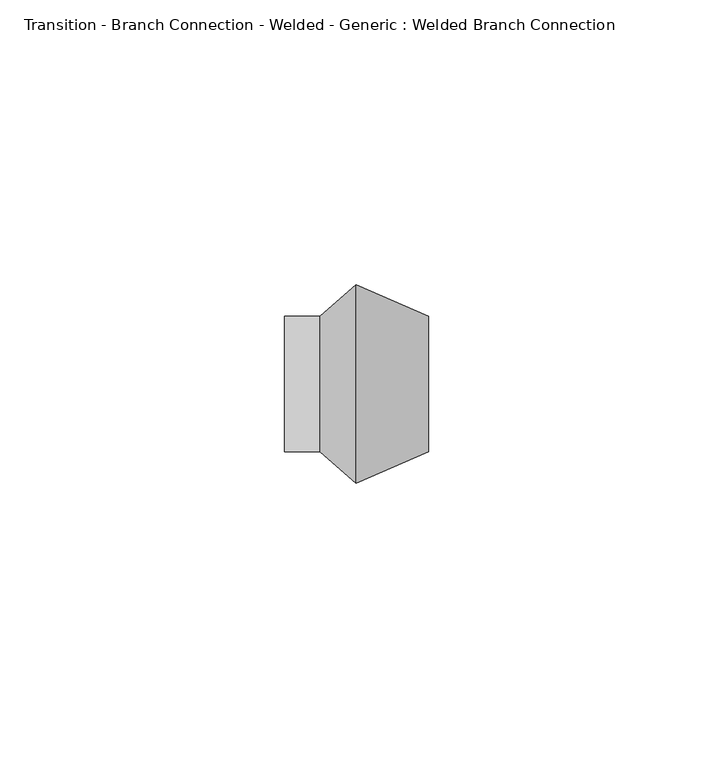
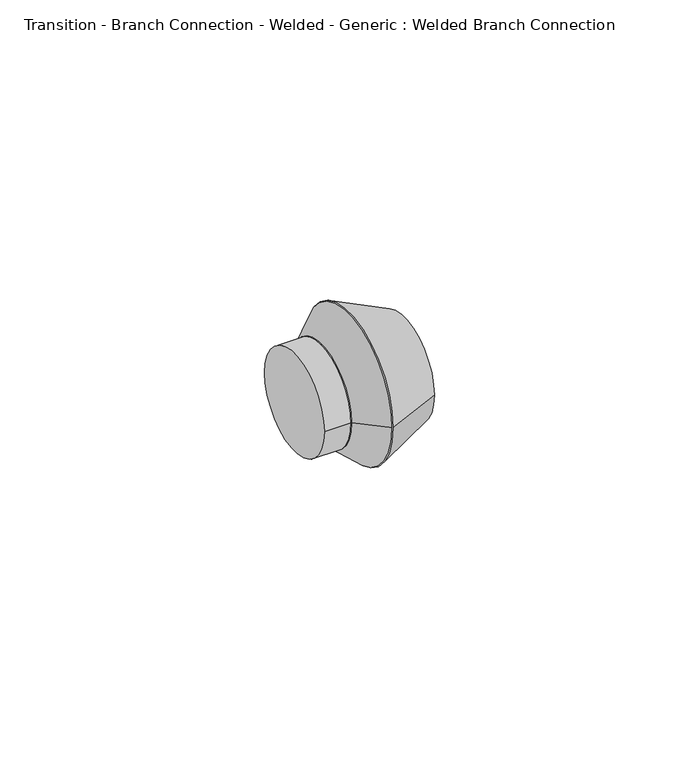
"""IFC4 building model written with IfcOpenShell, lengths in millimetres: pipe fitting geometry, Transition - Branch Connection - Welded - Generic : Welded Branch Connection."""

from ifc_helpers import new_model, si_unit, point, frame, origin, origin_2d, place, context, project, spatial, polyline, circle_curve, trimmed, segment, composite_curve, outline, extrude, source, transform, mapped, element, save
from ifc_brep_helpers import plane_surface, revolved_surface, advanced_brep


def transition_branch_connection_welded_generic_welded_branch_0f21a8f6(model_context):
    return source(origin(), model_context, "Body", "SolidModel", [
        advanced_brep(
        [(6.35, 17.4625, 0.0), (6.35, -17.4625, 0.0), (19.05, 11.90625, 0.0), (19.05, -11.90625, 0.0)],
        [
            (0, 1, circle_curve(frame((6.35, 0.0, 0.0), z_axis=(-1.0, 0.0, 0.0), x_axis=(0.0, -1.0, 0.0)), 17.4625)),
            (1, 0, circle_curve(frame((6.35, 0.0, 0.0), z_axis=(-1.0, 0.0, 0.0), x_axis=(0.0, 1.0, 0.0)), 17.4625)),
            (2, 3, circle_curve(frame((19.05, 0.0, 0.0), z_axis=(1.0, 0.0, 0.0), x_axis=(0.0, 1.0, 0.0)), 11.90625)),
            (3, 2, circle_curve(frame((19.05, 0.0, 0.0), z_axis=(1.0, 0.0, 0.0), x_axis=(0.0, -1.0, 0.0)), 11.90625)),
            (3, 1),
            (0, 2),
        ],
        [
            plane_surface(frame((6.35, 0.0, 0.0), z_axis=(-1.0, 0.0, 0.0), x_axis=(0.0, 0.0, -1.0))),
            plane_surface(frame((19.05, 0.0, 0.0), z_axis=(1.0, 0.0, 0.0), x_axis=(0.0, 0.0, -1.0))),
            revolved_surface(polyline([(19.05, -11.906249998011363, 0.0), (6.350000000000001, -17.4625, 0.0)]), (46.2642857, 0.0, 0.0), (-1.0, 0.0, 0.0)),
            revolved_surface(polyline([(19.05, 11.906249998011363, 0.0), (6.350000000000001, 17.4625, 0.0)]), (46.2642857, 0.0, 0.0), (-1.0, 0.0, 0.0)),
        ],
        [
            (0, [[1, 2]]),
            (1, [[3, 4]]),
            (2, [[5, -1, 6, -4]]),
            (3, [[-6, -2, -5, -3]]),
        ],
    ),
        advanced_brep(
        [(6.35, 17.4625, 0.0), (6.35, -17.4625, 0.0), (0.0, 11.90625, 0.0), (0.0, -11.90625, 0.0)],
        [
            (0, 1, circle_curve(frame((6.35, 0.0, 0.0), z_axis=(1.0, 0.0, 0.0), x_axis=(0.0, -1.0, 0.0)), 17.4625)),
            (1, 0, circle_curve(frame((6.35, 0.0, 0.0), z_axis=(1.0, 0.0, 0.0), x_axis=(0.0, 1.0, 0.0)), 17.4625)),
            (2, 3, circle_curve(frame((0.0, 0.0, 0.0), z_axis=(-1.0, 0.0, 0.0), x_axis=(0.0, 1.0, 0.0)), 11.90625)),
            (3, 2, circle_curve(frame((0.0, 0.0, 0.0), z_axis=(-1.0, 0.0, 0.0), x_axis=(0.0, -1.0, 0.0)), 11.90625)),
            (2, 0),
            (1, 3),
        ],
        [
            plane_surface(frame((6.35, 0.0, 0.0), z_axis=(1.0, 0.0, 0.0), x_axis=(0.0, 0.0, -1.0))),
            plane_surface(frame((0.0, 0.0, 0.0), z_axis=(-1.0, 0.0, 0.0), x_axis=(0.0, 0.0, -1.0))),
            revolved_surface(polyline([(0.0, 11.906250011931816, 0.0), (6.350000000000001, 17.4625, 0.0)]), (-13.6071429, 0.0, 0.0), (1.0, 0.0, 0.0)),
            revolved_surface(polyline([(0.0, -11.906250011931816, 0.0), (6.350000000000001, -17.4625, 0.0)]), (-13.6071429, 0.0, 0.0), (1.0, 0.0, 0.0)),
        ],
        [
            (0, [[1, 2]]),
            (1, [[3, 4]]),
            (2, [[5, -2, 6, -3]]),
            (3, [[-6, -1, -5, -4]]),
        ],
    ),
        extrude(outline(composite_curve([segment(trimmed(circle_curve(origin_2d(), 11.90625), [point((11.90625, 0.0))], [point((-11.90625, 0.0))], False, "CARTESIAN"), True, "CONTINUOUS"), segment(trimmed(circle_curve(origin_2d(), 11.90625), [point((-11.90625, 0.0))], [point((11.90625, 0.0))], False, "CARTESIAN"), True, "CONTINUOUS")], self_intersect=False)), frame((-6.2802129, 0.0, 0.0), z_axis=(1.0, 0.0, 0.0), x_axis=(0.0, 1.0, 0.0)), (0.0, 0.0, 1.0), 6.2802129),
    ])


if __name__ == "__main__":
    model = new_model("IFC4")
    model_context = context("Model", 3, world=origin())
    ifc_project = project(units=[si_unit("LENGTHUNIT", "METRE", prefix="MILLI")], contexts=[model_context])
    site = spatial("IfcSite", under=ifc_project)
    building = spatial("IfcBuilding", under=site)
    placement = place(None, origin())
    transition_branch_connection_welded_generic_welded_branch_shape = transition_branch_connection_welded_generic_welded_branch_0f21a8f6(model_context)
    element("IfcPipeFitting", 1, ObjectType="Transition - Branch Connection - Welded - Generic : Welded Branch Connection", at=placement, inside=building, context=model_context, shape_type="MappedRepresentation", body=[
        mapped(transition_branch_connection_welded_generic_welded_branch_shape, transform((0.0, 0.0, 0.0), x_axis=(1.0, 0.0, 0.0), y_axis=(0.0, 1.0, 0.0), z_axis=(0.0, 0.0, 1.0))),
    ])
    save(model, "model.ifc")
